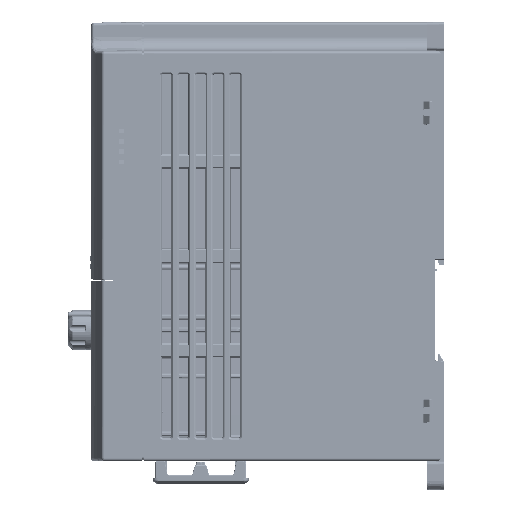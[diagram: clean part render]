
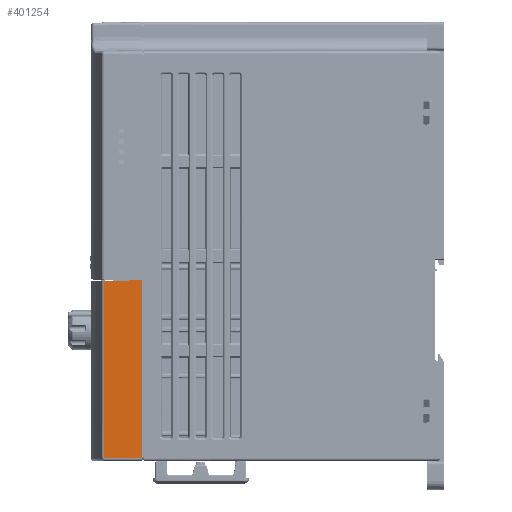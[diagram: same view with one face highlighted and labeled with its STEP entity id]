
A CAD part, left-side view. The second image highlights one B-rep face of the part: STEP entity #401254.
In plain terms, the highlighted planar face has unit normal (-1, 0.009, 0).
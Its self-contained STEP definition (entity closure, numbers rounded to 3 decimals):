
#11825 = ORIENTED_EDGE ( 'NONE', *, *, #837379, .T. ) ;
#11847 = ORIENTED_EDGE ( 'NONE', *, *, #837384, .T. ) ;
#11853 = ORIENTED_EDGE ( 'NONE', *, *, #837202, .T. ) ;
#11861 = ORIENTED_EDGE ( 'NONE', *, *, #833499, .T. ) ;
#18851 = AXIS2_PLACEMENT_3D ( 'NONE', #416345, #416419, #416423 ) ;
#60992 = CARTESIAN_POINT ( 'NONE',  ( -42.496, 105.1, -13.504 ) ) ;
#62336 = CARTESIAN_POINT ( 'NONE',  ( -42.496, 105.1, -75.5 ) ) ;
#158840 = B_SPLINE_CURVE_WITH_KNOTS ( 'NONE', 3,
 ( #367478, #367457, #367495, #367500 ),
 .UNSPECIFIED., .F., .F.,
 ( 4, 4 ),
 ( 0., 1. ),
 .UNSPECIFIED. ) ;
#189079 = FACE_OUTER_BOUND ( 'NONE', #738700, .T. ) ;
#189103 = DIRECTION ( 'NONE',  ( 0., 0., -1. ) ) ;
#189125 = CARTESIAN_POINT ( 'NONE',  ( -42.379, 118.466, -80.067 ) ) ;
#204745 = LINE ( 'NONE', #189125, #204768 ) ;
#204768 = VECTOR ( 'NONE', #189103, 1000. ) ;
#211508 = LINE ( 'NONE', #334893, #211520 ) ;
#211520 = VECTOR ( 'NONE', #334768, 1000. ) ;
#212104 = LINE ( 'NONE', #367515, #212168 ) ;
#212168 = VECTOR ( 'NONE', #367522, 1000. ) ;
#334768 = DIRECTION ( 'NONE',  ( -0.009, -1., 0. ) ) ;
#334893 = CARTESIAN_POINT ( 'NONE',  ( -42.5, 104.6, -75.5 ) ) ;
#348806 = VERTEX_POINT ( 'NONE', #554144 ) ;
#367457 = CARTESIAN_POINT ( 'NONE',  ( -42.457, 109.555, -13.543 ) ) ;
#367478 = CARTESIAN_POINT ( 'NONE',  ( -42.496, 105.1, -13.504 ) ) ;
#367495 = CARTESIAN_POINT ( 'NONE',  ( -42.418, 114.01, -13.582 ) ) ;
#367500 = CARTESIAN_POINT ( 'NONE',  ( -42.379, 118.466, -13.621 ) ) ;
#367515 = CARTESIAN_POINT ( 'NONE',  ( -42.496, 105.1, -13.5 ) ) ;
#367522 = DIRECTION ( 'NONE',  ( 0., 0., 1. ) ) ;
#401254 = ADVANCED_FACE ( 'NONE', ( #189079 ), #416412, .T. ) ;
#416345 = CARTESIAN_POINT ( 'NONE',  ( -42.5, 104.6, -80.067 ) ) ;
#416412 = PLANE ( 'NONE',  #18851 ) ;
#416419 = DIRECTION ( 'NONE',  ( -1., 0.009, 0. ) ) ;
#416423 = DIRECTION ( 'NONE',  ( -0.009, -1., 0. ) ) ;
#541811 = CARTESIAN_POINT ( 'NONE',  ( -42.379, 118.466, -13.621 ) ) ;
#554144 = CARTESIAN_POINT ( 'NONE',  ( -42.379, 118.466, -75.5 ) ) ;
#573123 = VERTEX_POINT ( 'NONE', #60992 ) ;
#573401 = VERTEX_POINT ( 'NONE', #62336 ) ;
#602232 = VERTEX_POINT ( 'NONE', #541811 ) ;
#738700 = EDGE_LOOP ( 'NONE', ( #11825, #11861, #11853, #11847 ) ) ;
#833499 = EDGE_CURVE ( 'NONE', #602232, #348806, #204745, .T. ) ;
#837202 = EDGE_CURVE ( 'NONE', #348806, #573401, #211508, .T. ) ;
#837379 = EDGE_CURVE ( 'NONE', #573123, #602232, #158840, .T. ) ;
#837384 = EDGE_CURVE ( 'NONE', #573401, #573123, #212104, .T. ) ;
